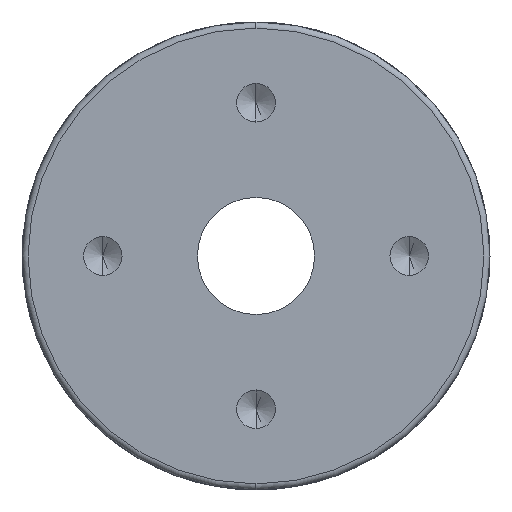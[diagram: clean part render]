
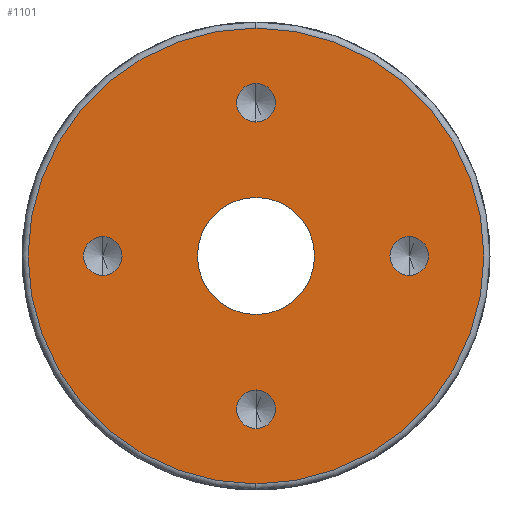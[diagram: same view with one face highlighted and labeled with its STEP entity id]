
A CAD part, left-side view. The second image highlights one B-rep face of the part: STEP entity #1101.
In plain terms, the highlighted planar face has unit normal (-1, 0, 0).
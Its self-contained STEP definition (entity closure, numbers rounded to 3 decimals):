
#17 = CARTESIAN_POINT ( 'NONE',  ( 0., 0., -5. ) ) ;
#22 = CIRCLE ( 'NONE', #45, 5. ) ;
#27 = CARTESIAN_POINT ( 'NONE',  ( 0., 0., 0. ) ) ;
#40 = DIRECTION ( 'NONE',  ( 0., 0., 1. ) ) ;
#45 = AXIS2_PLACEMENT_3D ( 'NONE', #27, #46, #40 ) ;
#46 = DIRECTION ( 'NONE',  ( -1., 0., 0. ) ) ;
#1024 = EDGE_LOOP ( 'NONE', ( #1025, #1081 ) ) ;
#1025 = ORIENTED_EDGE ( 'NONE', *, *, #1070, .F. ) ;
#1054 = EDGE_LOOP ( 'NONE', ( #1102, #1074 ) ) ;
#1070 = EDGE_CURVE ( 'NONE', #2154, #2151, #2737, .T. ) ;
#1072 = EDGE_CURVE ( 'NONE', #2328, #2263, #2749, .T. ) ;
#1074 = ORIENTED_EDGE ( 'NONE', *, *, #2327, .F. ) ;
#1081 = ORIENTED_EDGE ( 'NONE', *, *, #2153, .F. ) ;
#1101 = ADVANCED_FACE ( 'NONE', ( #2827, #2828, #2813, #2803, #2825, #2824 ), #2818, .F. ) ;
#1102 = ORIENTED_EDGE ( 'NONE', *, *, #1072, .F. ) ;
#1118 = ORIENTED_EDGE ( 'NONE', *, *, #2326, .F. ) ;
#1120 = EDGE_LOOP ( 'NONE', ( #1121, #1118 ) ) ;
#1121 = ORIENTED_EDGE ( 'NONE', *, *, #1122, .F. ) ;
#1122 = EDGE_CURVE ( 'NONE', #2282, #2242, #2811, .T. ) ;
#1230 = ORIENTED_EDGE ( 'NONE', *, *, #1436, .F. ) ;
#1232 = EDGE_CURVE ( 'NONE', #2202, #2199, #2985, .T. ) ;
#1233 = ORIENTED_EDGE ( 'NONE', *, *, #2201, .F. ) ;
#1234 = EDGE_LOOP ( 'NONE', ( #1283, #1285 ) ) ;
#1261 = EDGE_LOOP ( 'NONE', ( #1262, #1233 ) ) ;
#1262 = ORIENTED_EDGE ( 'NONE', *, *, #1232, .F. ) ;
#1264 = EDGE_LOOP ( 'NONE', ( #1265, #1230 ) ) ;
#1265 = ORIENTED_EDGE ( 'NONE', *, *, #1266, .F. ) ;
#1266 = EDGE_CURVE ( 'NONE', #1430, #1434, #3033, .T. ) ;
#1283 = ORIENTED_EDGE ( 'NONE', *, *, #1284, .T. ) ;
#1284 = EDGE_CURVE ( 'NONE', #2277, #2276, #3102, .T. ) ;
#1285 = ORIENTED_EDGE ( 'NONE', *, *, #2321, .T. ) ;
#1336 = CARTESIAN_POINT ( 'NONE',  ( 0., 0., 5. ) ) ;
#1430 = VERTEX_POINT ( 'NONE', #1336 ) ;
#1434 = VERTEX_POINT ( 'NONE', #17 ) ;
#1436 = EDGE_CURVE ( 'NONE', #1434, #1430, #22, .T. ) ;
#2151 = VERTEX_POINT ( 'NONE', #4071 ) ;
#2153 = EDGE_CURVE ( 'NONE', #2151, #2154, #4102, .T. ) ;
#2154 = VERTEX_POINT ( 'NONE', #4101 ) ;
#2199 = VERTEX_POINT ( 'NONE', #4128 ) ;
#2201 = EDGE_CURVE ( 'NONE', #2199, #2202, #4129, .T. ) ;
#2202 = VERTEX_POINT ( 'NONE', #4121 ) ;
#2242 = VERTEX_POINT ( 'NONE', #4167 ) ;
#2263 = VERTEX_POINT ( 'NONE', #3266 ) ;
#2276 = VERTEX_POINT ( 'NONE', #3261 ) ;
#2277 = VERTEX_POINT ( 'NONE', #3260 ) ;
#2282 = VERTEX_POINT ( 'NONE', #3251 ) ;
#2321 = EDGE_CURVE ( 'NONE', #2276, #2277, #3323, .T. ) ;
#2326 = EDGE_CURVE ( 'NONE', #2242, #2282, #3305, .T. ) ;
#2327 = EDGE_CURVE ( 'NONE', #2263, #2328, #3335, .T. ) ;
#2328 = VERTEX_POINT ( 'NONE', #3334 ) ;
#2672 = AXIS2_PLACEMENT_3D ( 'NONE', #2743, #2757, #2772 ) ;
#2737 = CIRCLE ( 'NONE', #2672, 1.65 ) ;
#2743 = CARTESIAN_POINT ( 'NONE',  ( 0., 0., 13.1 ) ) ;
#2748 = AXIS2_PLACEMENT_3D ( 'NONE', #2797, #2784, #2786 ) ;
#2749 = CIRCLE ( 'NONE', #2748, 1.65 ) ;
#2757 = DIRECTION ( 'NONE',  ( -1., 0., 0. ) ) ;
#2772 = DIRECTION ( 'NONE',  ( 0., 0., 1. ) ) ;
#2784 = DIRECTION ( 'NONE',  ( -1., 0., 0. ) ) ;
#2786 = DIRECTION ( 'NONE',  ( 0., 0., 1. ) ) ;
#2797 = CARTESIAN_POINT ( 'NONE',  ( 0., 13.1, 0. ) ) ;
#2803 = FACE_BOUND ( 'NONE', #1261, .T. ) ;
#2810 = CARTESIAN_POINT ( 'NONE',  ( 0., 0., -13.1 ) ) ;
#2811 = CIRCLE ( 'NONE', #2842, 1.65 ) ;
#2813 = FACE_BOUND ( 'NONE', #1120, .T. ) ;
#2814 = DIRECTION ( 'NONE',  ( 0., 0., -1. ) ) ;
#2815 = DIRECTION ( 'NONE',  ( 1., 0., 0. ) ) ;
#2818 = PLANE ( 'NONE',  #2826 ) ;
#2824 = FACE_BOUND ( 'NONE', #1264, .T. ) ;
#2825 = FACE_OUTER_BOUND ( 'NONE', #1234, .T. ) ;
#2826 = AXIS2_PLACEMENT_3D ( 'NONE', #2833, #2815, #2814 ) ;
#2827 = FACE_BOUND ( 'NONE', #1054, .T. ) ;
#2828 = FACE_BOUND ( 'NONE', #1024, .T. ) ;
#2833 = CARTESIAN_POINT ( 'NONE',  ( 0., 0., 0. ) ) ;
#2840 = DIRECTION ( 'NONE',  ( 0., 0., 1. ) ) ;
#2841 = DIRECTION ( 'NONE',  ( -1., 0., 0. ) ) ;
#2842 = AXIS2_PLACEMENT_3D ( 'NONE', #2810, #2841, #2840 ) ;
#2977 = DIRECTION ( 'NONE',  ( 0., 0., 1. ) ) ;
#2978 = DIRECTION ( 'NONE',  ( -1., 0., 0. ) ) ;
#2979 = CARTESIAN_POINT ( 'NONE',  ( 0., -13.1, 0. ) ) ;
#2984 = AXIS2_PLACEMENT_3D ( 'NONE', #2979, #2978, #2977 ) ;
#2985 = CIRCLE ( 'NONE', #2984, 1.65 ) ;
#3017 = DIRECTION ( 'NONE',  ( 0., 0., 1. ) ) ;
#3027 = CARTESIAN_POINT ( 'NONE',  ( 0., 0., 0. ) ) ;
#3032 = AXIS2_PLACEMENT_3D ( 'NONE', #3086, #3079, #3017 ) ;
#3033 = CIRCLE ( 'NONE', #3032, 5. ) ;
#3079 = DIRECTION ( 'NONE',  ( -1., 0., 0. ) ) ;
#3084 = DIRECTION ( 'NONE',  ( 0., 0., -1. ) ) ;
#3085 = DIRECTION ( 'NONE',  ( -1., 0., 0. ) ) ;
#3086 = CARTESIAN_POINT ( 'NONE',  ( 0., 0., 0. ) ) ;
#3101 = AXIS2_PLACEMENT_3D ( 'NONE', #3027, #3085, #3084 ) ;
#3102 = CIRCLE ( 'NONE', #3101, 19.48 ) ;
#3251 = CARTESIAN_POINT ( 'NONE',  ( 0., 0., -11.45 ) ) ;
#3260 = CARTESIAN_POINT ( 'NONE',  ( 0., 0., -19.48 ) ) ;
#3261 = CARTESIAN_POINT ( 'NONE',  ( 0., 0., 19.48 ) ) ;
#3266 = CARTESIAN_POINT ( 'NONE',  ( 0., 13.1, -1.65 ) ) ;
#3301 = DIRECTION ( 'NONE',  ( -1., 0., 0. ) ) ;
#3302 = CARTESIAN_POINT ( 'NONE',  ( 0., 0., -13.1 ) ) ;
#3303 = AXIS2_PLACEMENT_3D ( 'NONE', #3302, #3301, #3336 ) ;
#3304 = CARTESIAN_POINT ( 'NONE',  ( 0., 13.1, 0. ) ) ;
#3305 = CIRCLE ( 'NONE', #3303, 1.65 ) ;
#3309 = DIRECTION ( 'NONE',  ( 0., 0., -1. ) ) ;
#3310 = DIRECTION ( 'NONE',  ( -1., 0., 0. ) ) ;
#3311 = CARTESIAN_POINT ( 'NONE',  ( 0., 0., 0. ) ) ;
#3314 = DIRECTION ( 'NONE',  ( 0., 0., 1. ) ) ;
#3315 = DIRECTION ( 'NONE',  ( -1., 0., 0. ) ) ;
#3316 = AXIS2_PLACEMENT_3D ( 'NONE', #3304, #3315, #3314 ) ;
#3322 = AXIS2_PLACEMENT_3D ( 'NONE', #3311, #3310, #3309 ) ;
#3323 = CIRCLE ( 'NONE', #3322, 19.48 ) ;
#3334 = CARTESIAN_POINT ( 'NONE',  ( 0., 13.1, 1.65 ) ) ;
#3335 = CIRCLE ( 'NONE', #3316, 1.65 ) ;
#3336 = DIRECTION ( 'NONE',  ( 0., 0., 1. ) ) ;
#4071 = CARTESIAN_POINT ( 'NONE',  ( 0., 0., 11.45 ) ) ;
#4074 = DIRECTION ( 'NONE',  ( 0., 0., 1. ) ) ;
#4098 = DIRECTION ( 'NONE',  ( -1., 0., 0. ) ) ;
#4099 = CARTESIAN_POINT ( 'NONE',  ( 0., 0., 13.1 ) ) ;
#4101 = CARTESIAN_POINT ( 'NONE',  ( 0., 0., 14.75 ) ) ;
#4102 = CIRCLE ( 'NONE', #4104, 1.65 ) ;
#4104 = AXIS2_PLACEMENT_3D ( 'NONE', #4099, #4098, #4074 ) ;
#4117 = AXIS2_PLACEMENT_3D ( 'NONE', #4122, #4118, #4119 ) ;
#4118 = DIRECTION ( 'NONE',  ( -1., 0., 0. ) ) ;
#4119 = DIRECTION ( 'NONE',  ( 0., 0., 1. ) ) ;
#4121 = CARTESIAN_POINT ( 'NONE',  ( 0., -13.1, 1.65 ) ) ;
#4122 = CARTESIAN_POINT ( 'NONE',  ( 0., -13.1, 0. ) ) ;
#4128 = CARTESIAN_POINT ( 'NONE',  ( 0., -13.1, -1.65 ) ) ;
#4129 = CIRCLE ( 'NONE', #4117, 1.65 ) ;
#4167 = CARTESIAN_POINT ( 'NONE',  ( 0., 0., -14.75 ) ) ;
